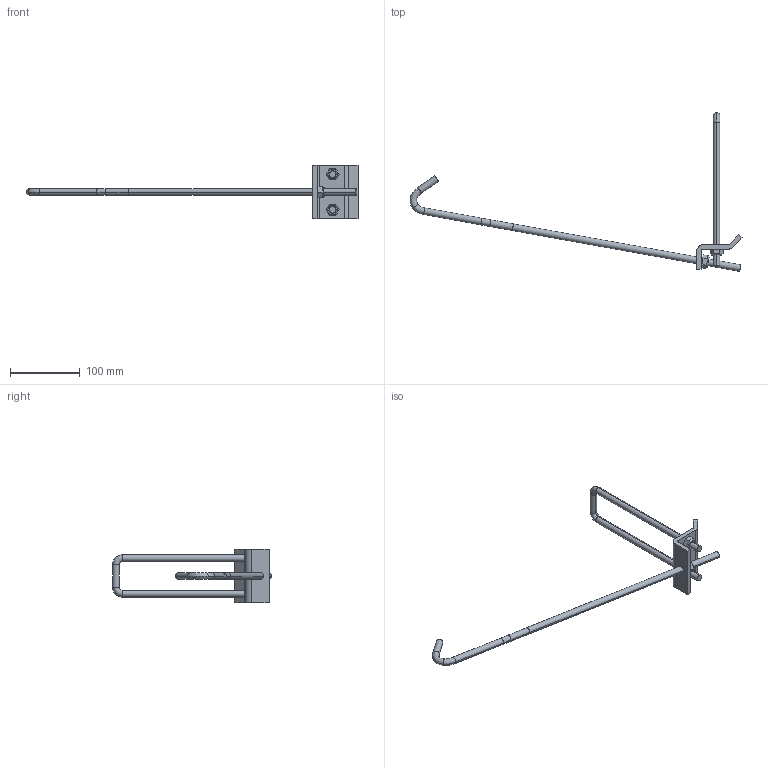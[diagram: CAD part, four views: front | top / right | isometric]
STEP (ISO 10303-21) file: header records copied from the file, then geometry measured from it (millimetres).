
FILE_DESCRIPTION(('TurboCAD Mac Pro'),'Build 980');
FILE_NAME('P2867B-18.stp',' ',(''),(''),'ACIS Interop','IMSI','TurboCAD Mac Pro BY IMSI, INCORPORATED');
FILE_SCHEMA(('automotive_design'));
Length unit declared in the file: inch
Products named in the file (6): 1; 2; 3; 4; 5; 6
Bounding box: 474.58 x 226.95 x 76.2 mm (x, y, z)
Volume: 119957.3 mm3; surface area: 49700 mm2
Topology: 6 solids, 6 shells, 100 faces, 226 edges, 138 vertices
Faces by surface type: plane 56, bspline 24, cylinder 20
Entity records: 5640 total; most frequent: CARTESIAN_POINT 1602, ORIENTED_EDGE 452, DIRECTION 382, STYLED_ITEM 304, PRESENTATION_STYLE_ASSIGNMENT 304, COLOUR_RGB 304, EDGE_CURVE 226, CURVE_STYLE 198
